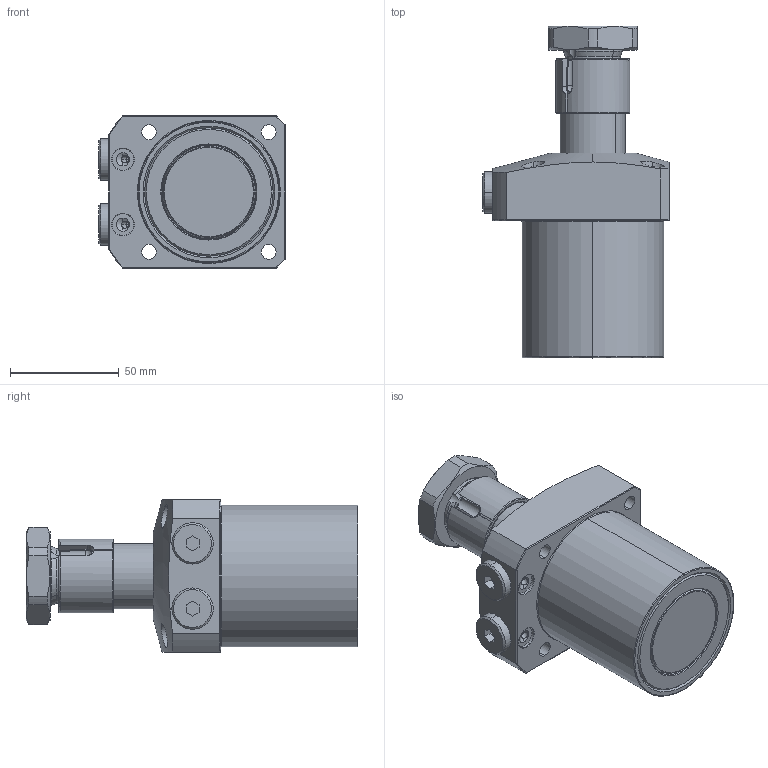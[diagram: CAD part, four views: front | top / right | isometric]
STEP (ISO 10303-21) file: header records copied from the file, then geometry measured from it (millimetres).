
FILE_DESCRIPTION(/* description */ (''),/* implementation_level */ '2;1');
FILE_NAME(/* name */ 'KTRC65-RN45.stp',/* time_stamp */ '2022-11-18T10:07:13+08:00',/* author */ (''),/* organization */ (''),/* preprocessor_version */ 'ST-DEVELOPER v16.7',/* originating_system */ 'SIEMENS PLM Software NX 12.0',/* authorisation */ '');
FILE_SCHEMA (('AP203_CONFIGURATION_CONTROLLED_3D_DESIGN_OF_MECHANICAL_PARTS_AND_ASSEMBLIES_MIM_LF { 1 0 10303 403 2 1 2}'));
Length unit declared in the file: millimetre
Products named in the file (7): KTRC65-RN45-06; KTRC65-RN45-03; KTRC65-RN45-02; KTRC65-RN45-01; KTRC65-RN45-05; KTRC65-RN45-04; LHA0650-CL-Y45_step
Assembly tree (7 placements, depth 2):
  LHA0650-CL-Y45_step
    KTRC65-RN45-04
    KTRC65-RN45-05  x2
    KTRC65-RN45-01
    KTRC65-RN45-02
    KTRC65-RN45-03
    KTRC65-RN45-06
Bounding box: 85.5 x 152.5 x 70 mm (x, y, z)
Volume: 413098.7 mm3; surface area: 58363.7 mm2
Topology: 7 solids, 7 shells, 234 faces, 547 edges, 341 vertices
Faces by surface type: cylinder 79, plane 78, cone 51, torus 24, sphere 2
Entity records: 7828 total; most frequent: CARTESIAN_POINT 1909, DIRECTION 1107, ORIENTED_EDGE 1034, EDGE_CURVE 517, AXIS2_PLACEMENT_3D 453, VERTEX_POINT 323, EDGE_LOOP 250, CIRCLE 224
